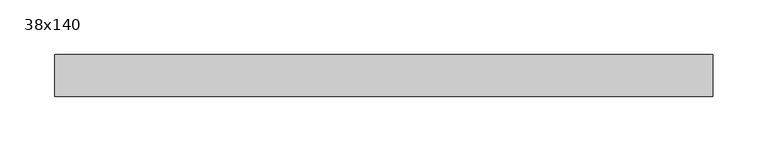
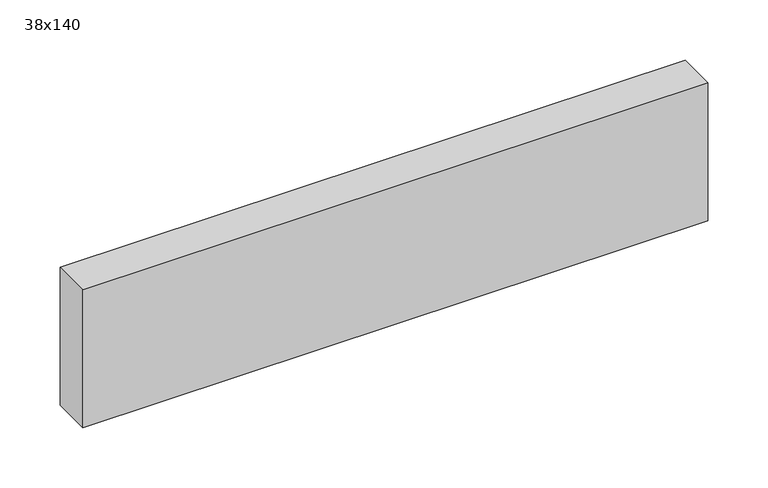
"""IFC4 building model written with IfcOpenShell, lengths in millimetres: beam geometry, Graded Timber : 38x140."""

import ifcopenshell
import ifcopenshell.guid

model = None  # the IFC model being written
_history = None  # IfcOwnerHistory: only IFC2X3 demands one
_inside = {}  # id of a spatial element -> (the spatial element, [elements in it])
_under = {}  # id of a project, library or spatial element -> (it, [spatial elements below it])
_declared = {}  # id of a project -> (the project, [libraries it declares])
_typed = {}  # id of a type object -> (the type object, [elements of that type])
_made_of = {}  # id of a material, layer set ... -> (it, [elements and type objects made of it])


def new_model(schema):
    """Start an empty IFC model of exactly this schema.

    Asked for "IFC4X3", IfcOpenShell would pick the latest addendum, in which some entities
    have other attributes; the version numbers below select the first issue.
    IFC2X3 requires an IfcOwnerHistory on every rooted entity: one is made here for all.
    """
    global model, _history
    if schema == "IFC4X3":
        model = ifcopenshell.file(schema_version=(4, 3, 0, 0))
    else:
        model = ifcopenshell.file(schema=schema)
    _inside.clear()
    _under.clear()
    _declared.clear()
    _typed.clear()
    _made_of.clear()
    _history = None
    if model.schema == "IFC2X3":
        org = make("IfcOrganization", Name="unknown")
        user = make(
            "IfcPersonAndOrganization",
            ThePerson=make("IfcPerson", FamilyName="unknown"),
            TheOrganization=org,
        )
        app = make(
            "IfcApplication",
            ApplicationDeveloper=org,
            Version="unknown",
            ApplicationFullName="unknown",
            ApplicationIdentifier="unknown",
        )
        _history = make(
            "IfcOwnerHistory",
            OwningUser=user,
            OwningApplication=app,
            ChangeAction="ADDED",
            CreationDate=0,
        )
    return model


def make(cls, **values):
    """One entity of the class cls with the attributes given. An attribute that is None is left unset."""
    return model.create_entity(
        cls, **{name: value for name, value in values.items() if value is not None}
    )


def rooted(cls, **values):
    """An entity with a GlobalId (a new one), such as an element, a storey or a relation."""
    return make(cls, GlobalId=ifcopenshell.guid.new(), OwnerHistory=_history, **values)


def si_unit(unit_type, name, prefix=None):
    """IfcSIUnit, for example si_unit("LENGTHUNIT", "METRE", prefix="MILLI")."""
    return make("IfcSIUnit", UnitType=unit_type, Prefix=prefix, Name=name)


def assignment(units):
    """IfcUnitAssignment: the units of a project."""
    return None if units is None else make("IfcUnitAssignment", Units=units)


def point(xyz):
    """IfcCartesianPoint."""
    return None if xyz is None else make("IfcCartesianPoint", Coordinates=xyz)


def direction(xyz):
    """IfcDirection."""
    return None if xyz is None else make("IfcDirection", DirectionRatios=xyz)


def frame(location, z_axis=None, x_axis=None):
    """IfcAxis2Placement3D, a coordinate frame: its origin and axes. An axis left out is left unset."""
    return make(
        "IfcAxis2Placement3D",
        Location=point(location),
        Axis=direction(z_axis),
        RefDirection=direction(x_axis),
    )


def origin():
    """The frame at (0, 0, 0) with its axes left unset."""
    return frame((0.0, 0.0, 0.0))


def place(relative_to, where):
    """IfcLocalPlacement: puts the frame where relative to a parent placement (None: the world)."""
    return make(
        "IfcLocalPlacement", PlacementRelTo=relative_to, RelativePlacement=where
    )


def context(
    kind, dimensions, precision=None, world=None, true_north=None, identifier=None
):
    """IfcGeometricRepresentationContext, for example the 3D "Model" context."""
    return make(
        "IfcGeometricRepresentationContext",
        ContextIdentifier=identifier,
        ContextType=kind,
        CoordinateSpaceDimension=dimensions,
        Precision=precision,
        WorldCoordinateSystem=world,
        TrueNorth=true_north,
    )


def project(units=None, contexts=None):
    """IfcProject with its units and contexts."""
    return rooted(
        "IfcProject",
        Name="project",
        RepresentationContexts=contexts,
        UnitsInContext=assignment(units),
    )


def spatial(cls, under=None, at=None, **own):
    """A site, building, storey or space (cls), placed at a placement, below another one or the project."""
    s = rooted(cls, ObjectPlacement=at, **own)
    if under is not None:
        _under.setdefault(under.id(), (under, []))[1].append(s)
    return s


def polyline(points):
    """IfcPolyline through the points."""
    return make("IfcPolyline", Points=[point(p) for p in points])


def outline(outer, holes=None, kind="AREA"):
    """IfcArbitraryClosedProfileDef: a profile drawn as a closed curve; with holes, ...WithVoids."""
    if holes is None:
        return make("IfcArbitraryClosedProfileDef", ProfileType=kind, OuterCurve=outer)
    return make(
        "IfcArbitraryProfileDefWithVoids",
        ProfileType=kind,
        OuterCurve=outer,
        InnerCurves=holes,
    )


def extrude(swept, where, along, depth):
    """IfcExtrudedAreaSolid: the profile swept, set in the frame where, extruded along a direction by depth."""
    return make(
        "IfcExtrudedAreaSolid",
        SweptArea=swept,
        Position=where,
        ExtrudedDirection=direction(along),
        Depth=depth,
    )


def shape(context_of_items, identifier, shape_type, items):
    """IfcShapeRepresentation: the items that make up one representation, for example the "Body"."""
    return make(
        "IfcShapeRepresentation",
        ContextOfItems=context_of_items,
        RepresentationIdentifier=identifier,
        RepresentationType=shape_type,
        Items=items,
    )


def source(mapping_origin, context_of_items, identifier, shape_type, items):
    """IfcRepresentationMap: a shape defined once, which mapped items show again and again."""
    return make(
        "IfcRepresentationMap",
        MappingOrigin=mapping_origin,
        MappedRepresentation=shape(context_of_items, identifier, shape_type, items),
    )


def transform(
    local_origin,
    x_axis=None,
    y_axis=None,
    z_axis=None,
    scale=None,
    scale2=None,
    scale3=None,
    uniform=True,
):
    """IfcCartesianTransformationOperator3D, or its non-uniform kind. x_axis, y_axis, z_axis: its Axis1, 2, 3."""
    if uniform:
        return make(
            "IfcCartesianTransformationOperator3D",
            Axis1=direction(x_axis),
            Axis2=direction(y_axis),
            LocalOrigin=point(local_origin),
            Scale=scale,
            Axis3=direction(z_axis),
        )
    return make(
        "IfcCartesianTransformationOperator3DnonUniform",
        Axis1=direction(x_axis),
        Axis2=direction(y_axis),
        LocalOrigin=point(local_origin),
        Scale=scale,
        Axis3=direction(z_axis),
        Scale2=scale2,
        Scale3=scale3,
    )


def mapped(mapping_source, mapping_target):
    """IfcMappedItem: shows the shape of a source again, moved by a transform."""
    return make(
        "IfcMappedItem", MappingSource=mapping_source, MappingTarget=mapping_target
    )


def made_of(thing, what):
    """Note that an element or type object is made of a material, layer set ...; save() writes the relation."""
    if what is not None:
        _made_of.setdefault(what.id(), (what, []))[1].append(thing)
    return thing


def element(
    cls,
    number,
    at=None,
    inside=None,
    cuts=None,
    type_object=None,
    material=None,
    context=None,
    identifier="Body",
    shape_type=None,
    held_by="IfcProductDefinitionShape",
    body=None,
    shapes=None,
    **own,
):
    """One element of the class cls, such as IfcWall. Its Tag is "e" and its number.

    at: its placement. inside: the storey or other place that contains it. cuts: it is an
    opening in that element (IfcRelVoidsElement). A single representation is given by context,
    identifier, shape_type and body (its items); several are given by shapes. held_by: the class
    of the entity that holds the representations. save() writes the other relations.
    """
    e = rooted(cls, Tag="e%d" % number, ObjectPlacement=at, **own)
    if body is not None:
        shapes = [shape(context, identifier, shape_type, body)]
    if shapes is not None:
        e.Representation = make(held_by, Representations=shapes)
    if inside is not None:
        _inside.setdefault(inside.id(), (inside, []))[1].append(e)
    if cuts is not None:
        rooted(
            "IfcRelVoidsElement", RelatingBuildingElement=cuts, RelatedOpeningElement=e
        )
    if type_object is not None:
        _typed.setdefault(type_object.id(), (type_object, []))[1].append(e)
    return made_of(e, material)


def aggregate(whole, parts):
    """IfcRelAggregates: a whole, such as a stair, and the parts it consists of."""
    return rooted("IfcRelAggregates", RelatingObject=whole, RelatedObjects=parts)


def save(model, path):
    """Write the relations noted so far, then the file.

    IfcRelAggregates (storeys below a building ...), IfcRelContainedInSpatialStructure (elements
    in a storey), IfcRelDefinesByType, IfcRelAssociatesMaterial and IfcRelDeclares: one each for
    every whole, place, type object, material and project.
    """
    for whole, parts in _under.values():
        aggregate(whole, parts)
    for where, things in _inside.values():
        rooted(
            "IfcRelContainedInSpatialStructure",
            RelatedElements=things,
            RelatingStructure=where,
        )
    for kind, things in _typed.values():
        rooted("IfcRelDefinesByType", RelatedObjects=things, RelatingType=kind)
    for what, things in _made_of.values():
        rooted("IfcRelAssociatesMaterial", RelatedObjects=things, RelatingMaterial=what)
    for by, libraries in _declared.values():
        rooted("IfcRelDeclares", RelatingContext=by, RelatedDefinitions=libraries)
    model.write(path)


def beam_38x140_6c0e690e(model_context):
    return source(origin(), model_context, "Body", "SweptSolid", [
        extrude(outline(polyline([(355.3994818, 19.0), (355.3994818, -19.0), (-244.4999933, -19.0), (-244.4999933, 19.0), (355.3994818, 19.0)])), frame((0.0, 0.0, -70.0), z_axis=(0.0, 0.0, 1.0), x_axis=(1.0, 0.0, 0.0)), (0.0, 0.0, 1.0), 140.0),
    ])


if __name__ == "__main__":
    model = new_model("IFC4")
    model_context = context("Model", 3, world=origin())
    ifc_project = project(units=[si_unit("LENGTHUNIT", "METRE", prefix="MILLI")], contexts=[model_context])
    site = spatial("IfcSite", under=ifc_project)
    building = spatial("IfcBuilding", under=site)
    placement = place(None, origin())
    beam_38x140_shape = beam_38x140_6c0e690e(model_context)
    element("IfcBeam", 1, ObjectType="Graded Timber : 38x140", at=placement, inside=building, context=model_context, shape_type="MappedRepresentation", body=[
        mapped(beam_38x140_shape, transform((0.0, 0.0, 0.0), x_axis=(1.0, 0.0, 0.0), y_axis=(0.0, 1.0, 0.0), z_axis=(0.0, 0.0, 1.0))),
    ])
    save(model, "model.ifc")
